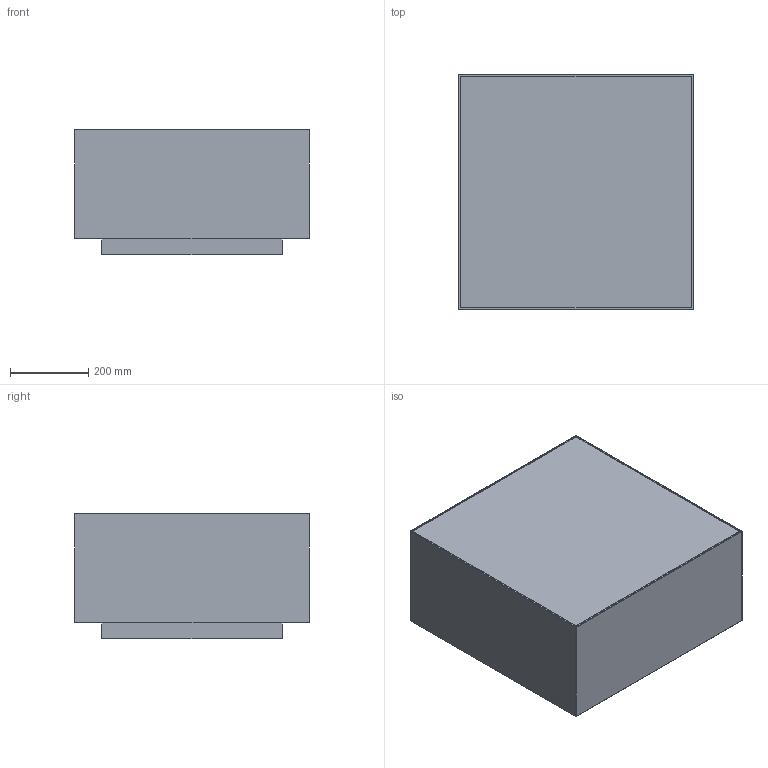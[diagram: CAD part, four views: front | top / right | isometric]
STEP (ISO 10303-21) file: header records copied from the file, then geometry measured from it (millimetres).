
FILE_DESCRIPTION(/* description */ (''),/* implementation_level */ '2;1');
FILE_NAME(/* name */ 'KINOSH~1',/* time_stamp */ '2019-07-24T09:04:37+09:00',/* author */ (''),/* organization */ (''),/* preprocessor_version */ 'ST-DEVELOPER v15',/* originating_system */ '',/* authorisation */ '');
FILE_SCHEMA (('AUTOMOTIVE_DESIGN'));
Length unit declared in the file: millimetre
Products named in the file (1): Document
Bounding box: 600 x 600 x 320 mm (x, y, z)
Volume: 105931953.3 mm3; surface area: 3222110.2 mm2
Topology: 2 solids, 6 shells, 108 faces, 236 edges, 132 vertices
Faces by surface type: bspline 72, plane 36
Entity records: 2880 total; most frequent: CARTESIAN_POINT 1479, ORIENTED_EDGE 448, EDGE_CURVE 236, VERTEX_POINT 132, ADVANCED_FACE 108, FACE_OUTER_BOUND 108, EDGE_LOOP 108, B_SPLINE_CURVE_WITH_KNOTS 108
